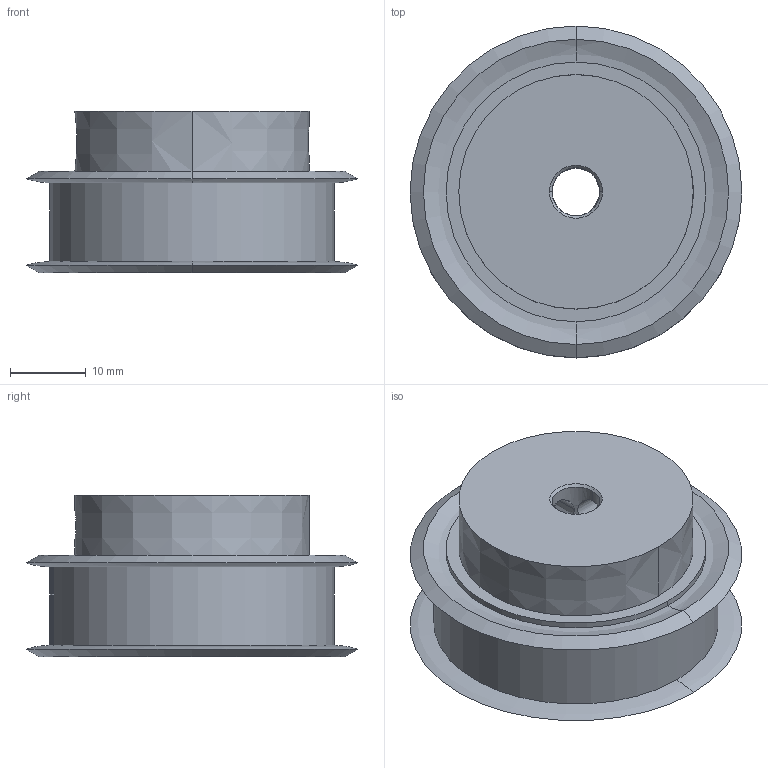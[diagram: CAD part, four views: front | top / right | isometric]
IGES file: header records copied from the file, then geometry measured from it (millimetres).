
Start section:  PTC IGES file: 50142.igs
Global section: file name: 50142.igs; native system: Pro/ENGINEER by Parametric Technology Corporation; preprocessor: 2001430; author: Administrator; organization: Unknown; date: 020621.135544; units: inch
Bounding box: 43.94 x 43.94 x 21.43 mm (x, y, z)
Surface area: 6774.7 mm2 (no closed solid volume)
Topology: 0 solids, 0 shells, 47 faces, 224 edges, 224 vertices
Faces by surface type: revolution 40, bspline 7
